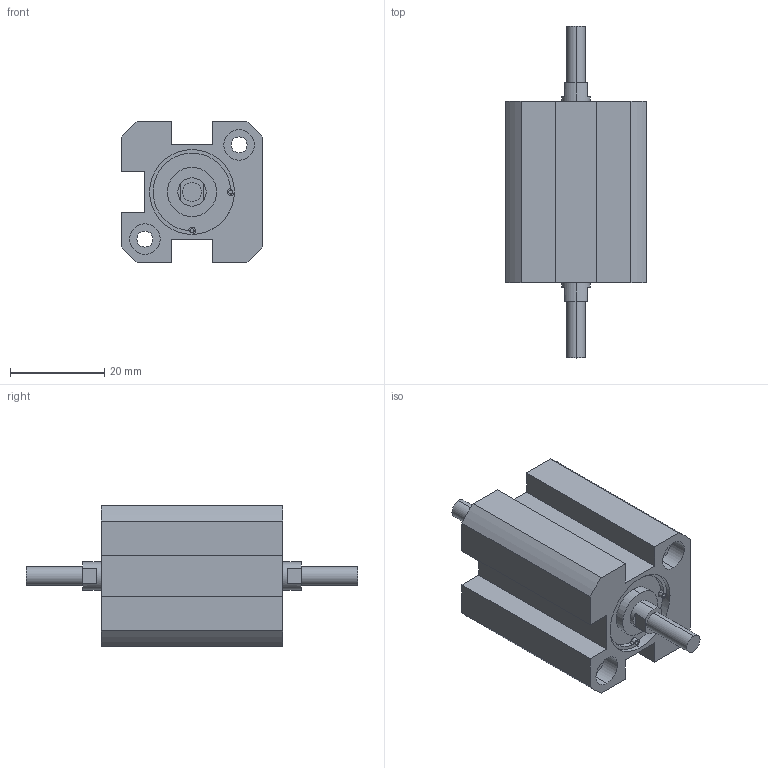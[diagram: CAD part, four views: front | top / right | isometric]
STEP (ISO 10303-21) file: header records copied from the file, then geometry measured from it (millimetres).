
FILE_DESCRIPTION (( 'STEP AP203' ), '1' );
FILE_NAME ('XC#M7-16D-10.STEP', '2016-05-23T08:54:29', ( '' ), ( '' ), 'SwSTEP 2.0', 'SolidWorks 2014', '' );
FILE_SCHEMA (( 'CONFIG_CONTROL_DESIGN' ));
Length unit declared in the file: millimetre
Products named in the file (1): XC#M7-16D-10
Bounding box: 30 x 70.5 x 30 mm (x, y, z)
Volume: 27241.4 mm3; surface area: 9066.3 mm2
Topology: 1 solids, 1 shells, 106 faces, 258 edges, 168 vertices
Faces by surface type: cylinder 58, plane 44, cone 4
Entity records: 3217 total; most frequent: DIRECTION 594, CARTESIAN_POINT 529, ORIENTED_EDGE 508, EDGE_CURVE 254, AXIS2_PLACEMENT_3D 233, VERTEX_POINT 168, LINE 128, VECTOR 128
